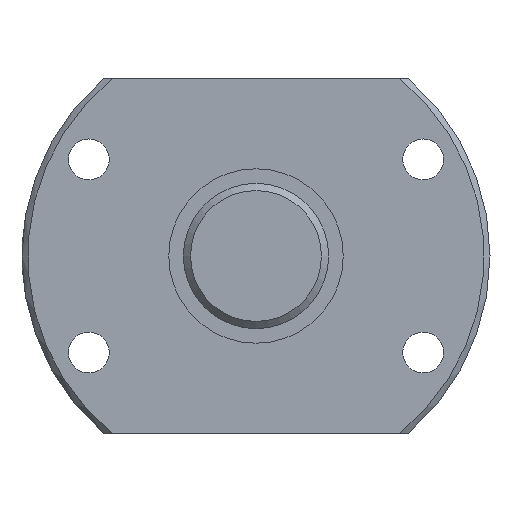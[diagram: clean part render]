
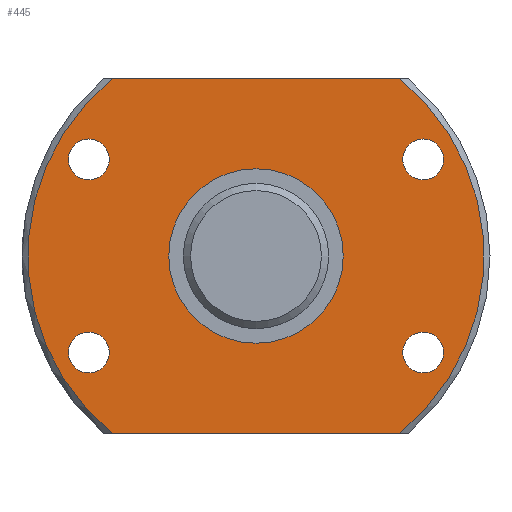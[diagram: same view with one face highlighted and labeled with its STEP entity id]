
A CAD part, left-side view. The second image highlights one B-rep face of the part: STEP entity #445.
In plain terms, the highlighted planar face has unit normal (-1, 0, 0).
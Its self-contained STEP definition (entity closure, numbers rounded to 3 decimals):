
#32=LINE('',#786,#40);
#33=LINE('',#790,#41);
#40=VECTOR('',#613,1000.);
#41=VECTOR('',#616,1000.);
#66=PLANE('',#515);
#102=ORIENTED_EDGE('',*,*,#196,.T.);
#103=ORIENTED_EDGE('',*,*,#197,.F.);
#104=ORIENTED_EDGE('',*,*,#198,.F.);
#105=ORIENTED_EDGE('',*,*,#199,.F.);
#106=ORIENTED_EDGE('',*,*,#186,.F.);
#107=ORIENTED_EDGE('',*,*,#200,.T.);
#108=ORIENTED_EDGE('',*,*,#201,.T.);
#109=ORIENTED_EDGE('',*,*,#202,.T.);
#110=ORIENTED_EDGE('',*,*,#203,.T.);
#186=EDGE_CURVE('',#234,#235,#273,.T.);
#196=EDGE_CURVE('',#244,#244,#278,.T.);
#197=EDGE_CURVE('',#245,#234,#32,.T.);
#198=EDGE_CURVE('',#246,#245,#279,.T.);
#199=EDGE_CURVE('',#235,#246,#33,.T.);
#200=EDGE_CURVE('',#247,#247,#280,.T.);
#201=EDGE_CURVE('',#248,#248,#281,.T.);
#202=EDGE_CURVE('',#249,#249,#282,.T.);
#203=EDGE_CURVE('',#250,#250,#283,.T.);
#234=VERTEX_POINT('',#738);
#235=VERTEX_POINT('',#740);
#244=VERTEX_POINT('',#785);
#245=VERTEX_POINT('',#787);
#246=VERTEX_POINT('',#789);
#247=VERTEX_POINT('',#792);
#248=VERTEX_POINT('',#794);
#249=VERTEX_POINT('',#796);
#250=VERTEX_POINT('',#798);
#273=CIRCLE('',#508,50.213);
#278=CIRCLE('',#516,19.2);
#279=CIRCLE('',#517,50.213);
#280=CIRCLE('',#518,4.5);
#281=CIRCLE('',#519,4.5);
#282=CIRCLE('',#520,4.5);
#283=CIRCLE('',#521,4.5);
#314=EDGE_LOOP('',(#102));
#315=EDGE_LOOP('',(#103,#104,#105,#106));
#316=EDGE_LOOP('',(#107));
#317=EDGE_LOOP('',(#108));
#318=EDGE_LOOP('',(#109));
#319=EDGE_LOOP('',(#110));
#376=FACE_BOUND('',#314,.T.);
#377=FACE_BOUND('',#315,.T.);
#378=FACE_BOUND('',#316,.T.);
#379=FACE_BOUND('',#317,.T.);
#380=FACE_BOUND('',#318,.T.);
#381=FACE_BOUND('',#319,.T.);
#445=ADVANCED_FACE('',(#376,#377,#378,#379,#380,#381),#66,.T.);
#508=AXIS2_PLACEMENT_3D('',#739,#593,#594);
#515=AXIS2_PLACEMENT_3D('',#783,#609,#610);
#516=AXIS2_PLACEMENT_3D('',#784,#611,#612);
#517=AXIS2_PLACEMENT_3D('',#788,#614,#615);
#518=AXIS2_PLACEMENT_3D('',#791,#617,#618);
#519=AXIS2_PLACEMENT_3D('',#793,#619,#620);
#520=AXIS2_PLACEMENT_3D('',#795,#621,#622);
#521=AXIS2_PLACEMENT_3D('',#797,#623,#624);
#593=DIRECTION('',(1.,0.,0.));
#594=DIRECTION('',(0.,0.,-1.));
#609=DIRECTION('',(-1.,0.,0.));
#610=DIRECTION('',(0.,0.,1.));
#611=DIRECTION('',(1.,0.,0.));
#612=DIRECTION('',(0.,0.,-1.));
#613=DIRECTION('',(0.,-1.,0.));
#614=DIRECTION('',(1.,0.,0.));
#615=DIRECTION('',(0.,0.,-1.));
#616=DIRECTION('',(0.,1.,0.));
#617=DIRECTION('',(1.,0.,0.));
#618=DIRECTION('',(0.,0.,-1.));
#619=DIRECTION('',(1.,0.,0.));
#620=DIRECTION('',(0.,0.,-1.));
#621=DIRECTION('',(1.,0.,0.));
#622=DIRECTION('',(0.,0.,-1.));
#623=DIRECTION('',(1.,0.,0.));
#624=DIRECTION('',(0.,0.,-1.));
#738=CARTESIAN_POINT('',(0.,-31.627,39.));
#739=CARTESIAN_POINT('',(0.,0.,0.));
#740=CARTESIAN_POINT('',(0.,-31.627,-39.));
#783=CARTESIAN_POINT('',(0.,50.213,0.));
#784=CARTESIAN_POINT('',(0.,0.,0.));
#785=CARTESIAN_POINT('',(0.,0.,-19.2));
#786=CARTESIAN_POINT('',(0.,51.6,39.));
#787=CARTESIAN_POINT('',(0.,31.627,39.));
#788=CARTESIAN_POINT('',(0.,0.,0.));
#789=CARTESIAN_POINT('',(0.,31.627,-39.));
#790=CARTESIAN_POINT('',(0.,-51.6,-39.));
#791=CARTESIAN_POINT('',(0.,-36.806,21.25));
#792=CARTESIAN_POINT('',(0.,-36.806,16.75));
#793=CARTESIAN_POINT('',(0.,-36.806,-21.25));
#794=CARTESIAN_POINT('',(0.,-36.806,-25.75));
#795=CARTESIAN_POINT('',(0.,36.806,-21.25));
#796=CARTESIAN_POINT('',(0.,36.806,-25.75));
#797=CARTESIAN_POINT('',(0.,36.806,21.25));
#798=CARTESIAN_POINT('',(0.,36.806,16.75));
